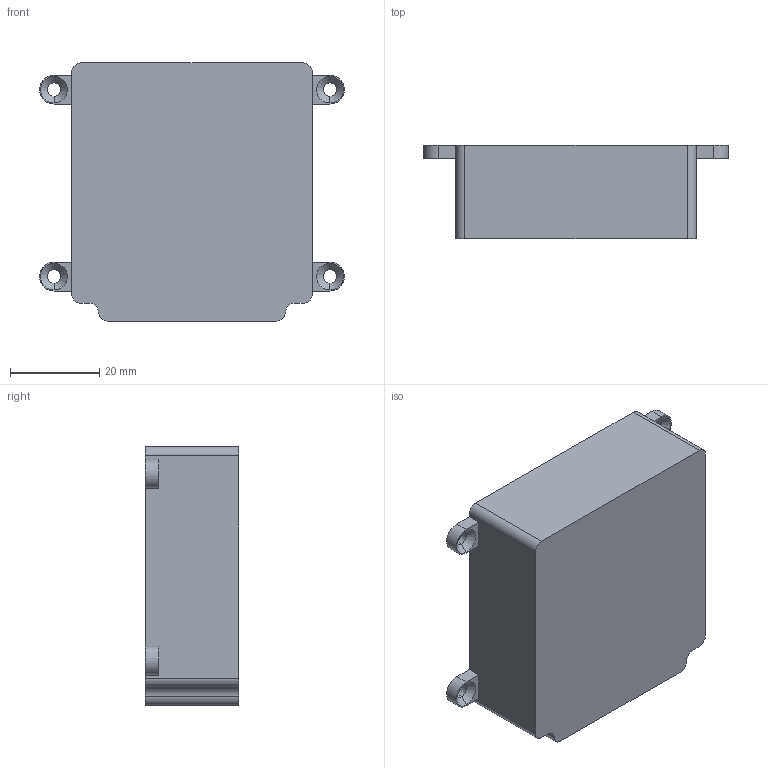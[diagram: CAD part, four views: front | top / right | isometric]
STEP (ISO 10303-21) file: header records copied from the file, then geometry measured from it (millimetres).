
FILE_DESCRIPTION (( 'STEP AP214' ), '1' );
FILE_NAME ('Controller_Cover.STEP', '2026-07-28T10:12:05', ( '' ), ( '' ), 'SwSTEP 2.0', 'SolidWorks 2024', '' );
FILE_SCHEMA (( 'AUTOMOTIVE_DESIGN' ));
Length unit declared in the file: millimetre
Products named in the file (1): Controller_Cover
Bounding box: 68.5 x 21 x 58 mm (x, y, z)
Volume: 19161.6 mm3; surface area: 13721.3 mm2
Topology: 1 solids, 1 shells, 60 faces, 166 edges, 108 vertices
Faces by surface type: plane 32, cylinder 20, cone 8
Entity records: 1953 total; most frequent: DIRECTION 336, CARTESIAN_POINT 335, ORIENTED_EDGE 332, EDGE_CURVE 166, LINE 118, VECTOR 118, AXIS2_PLACEMENT_3D 109, VERTEX_POINT 108
